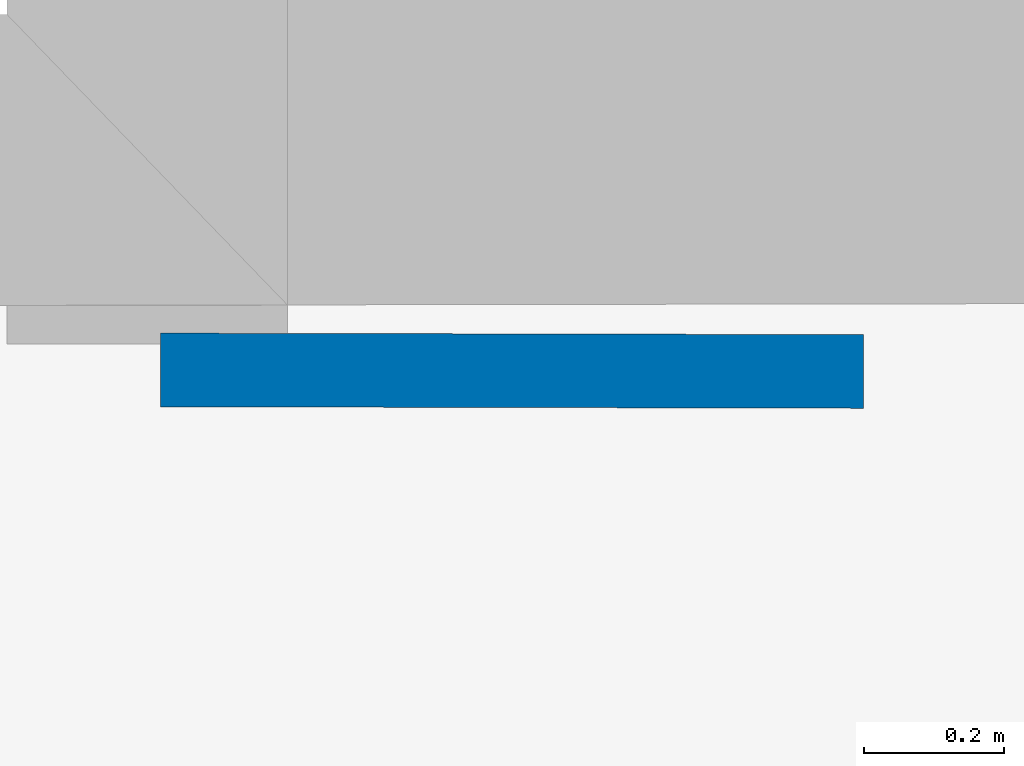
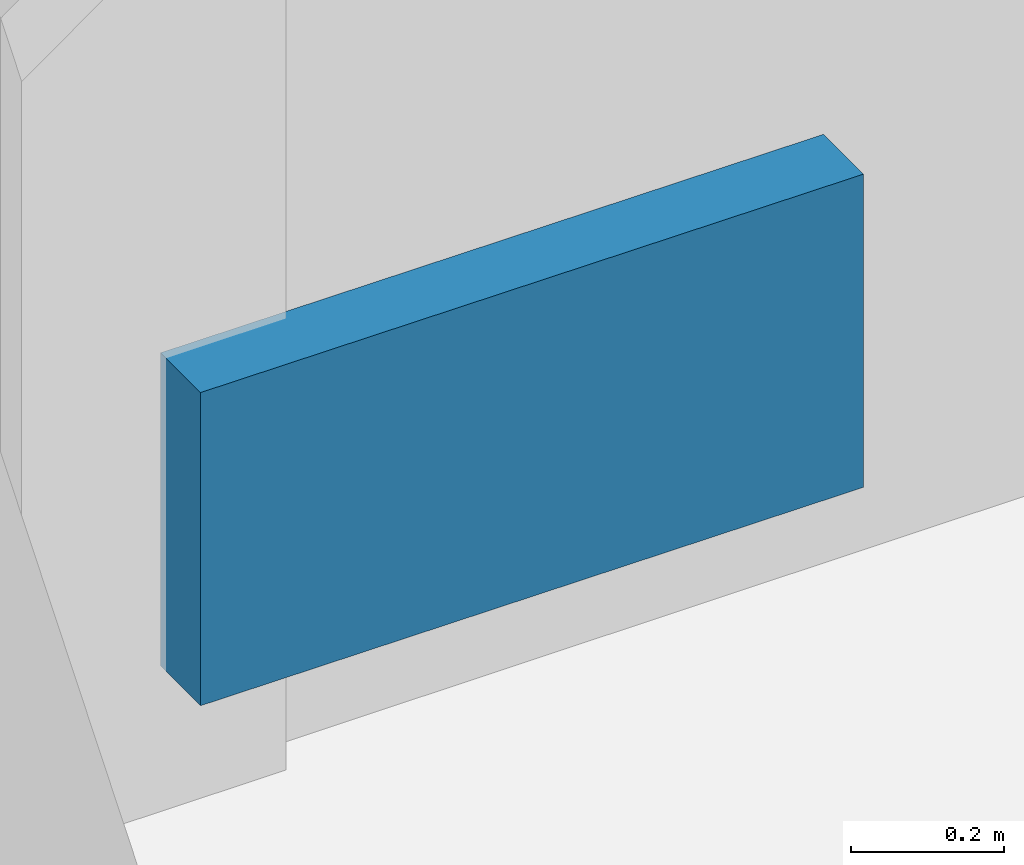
# One storey, part 39 of 158: 1 wall.
"""IFC2X3 building model written with IfcOpenShell, lengths in metres."""

from ifc_helpers import new_model, entity, si_unit, converted_unit, derived_unit, money_unit, direction, frame, origin_with_axes, place, context, subcontext, project, spatial, polyline, outline, extrude, material, layer, layer_set, layer_usage, type_object, element, save


model = new_model("IFC2X3")

# Units and contexts
model_context = context("Model", 3, precision=1e-05, world=origin_with_axes(), true_north=direction((0.0, 1.0)))
body_context = subcontext(model_context, "Body", "Model", "MODEL_VIEW")
ifc_project = project(units=[si_unit("LENGTHUNIT", "METRE"), si_unit("AREAUNIT", "SQUARE_METRE"), si_unit("VOLUMEUNIT", "CUBIC_METRE"), converted_unit("PLANEANGLEUNIT", "DEGREE", entity("IfcPlaneAngleMeasure", 0.0174532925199), si_unit("PLANEANGLEUNIT", "RADIAN"), dimensions=[0, 0, 0, 0, 0, 0, 0]), money_unit("EUR"), converted_unit("TIMEUNIT", "Year", entity("IfcTimeMeasure", 31556926.0), si_unit("TIMEUNIT", "SECOND"), dimensions=[0, 0, 1, 0, 0, 0, 0]), si_unit("MASSUNIT", "GRAM", prefix="KILO"), si_unit("THERMODYNAMICTEMPERATUREUNIT", "DEGREE_CELSIUS"), si_unit("LUMINOUSINTENSITYUNIT", "LUMEN"), si_unit("ENERGYUNIT", "JOULE", prefix="MEGA"), derived_unit("THERMALCONDUCTANCEUNIT", [(si_unit("POWERUNIT", "WATT"), 1), (si_unit("LENGTHUNIT", "METRE"), -1), (si_unit("THERMODYNAMICTEMPERATUREUNIT", "KELVIN"), -1)]), derived_unit("SPECIFICHEATCAPACITYUNIT", [(si_unit("ENERGYUNIT", "JOULE"), 1), (si_unit("MASSUNIT", "GRAM", prefix="KILO"), -1), (si_unit("THERMODYNAMICTEMPERATUREUNIT", "KELVIN"), -1)]), derived_unit("MASSDENSITYUNIT", [(si_unit("MASSUNIT", "GRAM", prefix="KILO"), 1), (si_unit("VOLUMEUNIT", "CUBIC_METRE"), -1)])], contexts=[model_context])

# Site, building, storey
site_placement = place(None, origin_with_axes())
site = spatial("IfcSite", under=ifc_project, at=site_placement, Name="Gelände", CompositionType="ELEMENT")
building_placement = place(site_placement, origin_with_axes())
building = spatial("IfcBuilding", under=site, at=building_placement, Name="Gebäude", CompositionType="ELEMENT")
storey_placement = place(building_placement, origin_with_axes())
storey = spatial("IfcBuildingStorey", under=building, at=storey_placement, Name="ERDGESCHOSS", CompositionType="ELEMENT", Elevation=0.0)

# Wall
ifc_material = material(Name="01_ALLGEMEIN - BAUTEIL")
ifc_layer = layer(ifc_material, 0.105, ventilated="UNKNOWN")
ifc_layer_set = layer_set([ifc_layer], Name="01_ALLGEMEIN - BAUTEIL 0.105")
ifc_layer_usage = layer_usage(ifc_layer_set, "AXIS2", "NEGATIVE", 0.105)
wall_type = type_object("IfcWallType", Name="01_ALLGEMEIN - BAUTEIL 105", PredefinedType="ELEMENTEDWALL")
wall_placement = place(storey_placement, frame((3.94934984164, 25.5134629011, 0.990155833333), z_axis=(0.0, 0.0, 1.0), x_axis=(0.999997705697, -0.00214210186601, 0.0)))
element("IfcWallStandardCase", 1, at=wall_placement, inside=storey, type_object=wall_type, material=ifc_layer_usage, Name="Wand-036", ObjectType="ELEMENTEDWALL", context=body_context, shape_type="SweptSolid", body=[
    extrude(outline(polyline([(0.0, 0.0), (1.0018504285, 0.0), (1.0018504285, 0.105), (0.0, 0.105), (0.0, 0.0)])), origin_with_axes(), (0.0, 0.0, 1.0), 0.501014),
])

save(model, "model.ifc")
